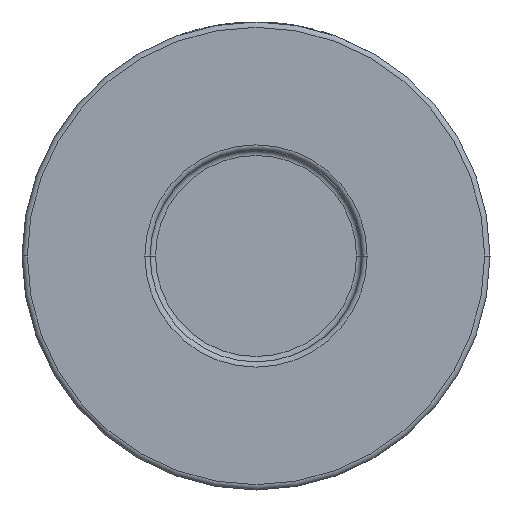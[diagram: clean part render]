
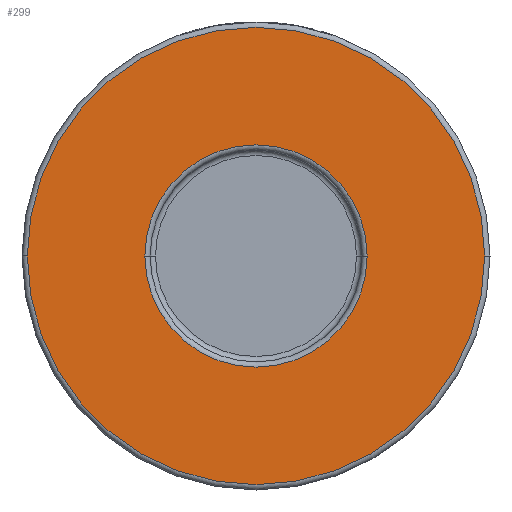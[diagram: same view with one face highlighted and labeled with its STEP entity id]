
A CAD part, front view. The second image highlights one B-rep face of the part: STEP entity #299.
In plain terms, the highlighted planar face has unit normal (0, -1, 0).
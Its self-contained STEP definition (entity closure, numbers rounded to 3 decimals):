
#140 = DIRECTION ( 'NONE',  ( 1., 0., 0. ) ) ;
#236 = AXIS2_PLACEMENT_3D ( 'NONE', #3827, #3554, #2090 ) ;
#238 = FACE_OUTER_BOUND ( 'NONE', #4279, .T. ) ;
#299 = ADVANCED_FACE ( 'NONE', ( #512, #238 ), #3778, .T. ) ;
#345 = CARTESIAN_POINT ( 'NONE',  ( 0., -19., 0. ) ) ;
#362 = EDGE_CURVE ( 'NONE', #4191, #2418, #834, .T. ) ;
#373 = EDGE_CURVE ( 'NONE', #2286, #4182, #3415, .T. ) ;
#386 = CARTESIAN_POINT ( 'NONE',  ( 20.9, -19., 0. ) ) ;
#512 = FACE_BOUND ( 'NONE', #3466, .T. ) ;
#700 = DIRECTION ( 'NONE',  ( 0., 1., 0. ) ) ;
#779 = CARTESIAN_POINT ( 'NONE',  ( 43., -19., 0. ) ) ;
#834 = CIRCLE ( 'NONE', #236, 43. ) ;
#971 = AXIS2_PLACEMENT_3D ( 'NONE', #3129, #700, #2114 ) ;
#1129 = CIRCLE ( 'NONE', #1868, 43. ) ;
#1158 = ORIENTED_EDGE ( 'NONE', *, *, #2341, .T. ) ;
#1181 = CARTESIAN_POINT ( 'NONE',  ( -43., -19., 0. ) ) ;
#1226 = CIRCLE ( 'NONE', #3731, 20.9 ) ;
#1868 = AXIS2_PLACEMENT_3D ( 'NONE', #345, #4548, #4526 ) ;
#2090 = DIRECTION ( 'NONE',  ( 1., 0., 0. ) ) ;
#2114 = DIRECTION ( 'NONE',  ( 1., 0., 0. ) ) ;
#2286 = VERTEX_POINT ( 'NONE', #4505 ) ;
#2293 = DIRECTION ( 'NONE',  ( 0., -1., 0. ) ) ;
#2341 = EDGE_CURVE ( 'NONE', #2418, #4191, #1129, .T. ) ;
#2369 = ORIENTED_EDGE ( 'NONE', *, *, #373, .T. ) ;
#2418 = VERTEX_POINT ( 'NONE', #779 ) ;
#2569 = CARTESIAN_POINT ( 'NONE',  ( 0., -19., 0. ) ) ;
#2711 = CARTESIAN_POINT ( 'NONE',  ( 44., -19., 0. ) ) ;
#3129 = CARTESIAN_POINT ( 'NONE',  ( 0., -19., 0. ) ) ;
#3217 = DIRECTION ( 'NONE',  ( 1., 0., 0. ) ) ;
#3243 = ORIENTED_EDGE ( 'NONE', *, *, #4181, .T. ) ;
#3263 = DIRECTION ( 'NONE',  ( 0., 1., 0. ) ) ;
#3415 = CIRCLE ( 'NONE', #971, 20.9 ) ;
#3466 = EDGE_LOOP ( 'NONE', ( #3243, #2369 ) ) ;
#3554 = DIRECTION ( 'NONE',  ( 0., -1., 0. ) ) ;
#3724 = AXIS2_PLACEMENT_3D ( 'NONE', #2711, #2293, #140 ) ;
#3731 = AXIS2_PLACEMENT_3D ( 'NONE', #2569, #3263, #3217 ) ;
#3778 = PLANE ( 'NONE',  #3724 ) ;
#3827 = CARTESIAN_POINT ( 'NONE',  ( 0., -19., 0. ) ) ;
#4181 = EDGE_CURVE ( 'NONE', #4182, #2286, #1226, .T. ) ;
#4182 = VERTEX_POINT ( 'NONE', #386 ) ;
#4191 = VERTEX_POINT ( 'NONE', #1181 ) ;
#4279 = EDGE_LOOP ( 'NONE', ( #1158, #4431 ) ) ;
#4431 = ORIENTED_EDGE ( 'NONE', *, *, #362, .T. ) ;
#4505 = CARTESIAN_POINT ( 'NONE',  ( -20.9, -19., 0. ) ) ;
#4526 = DIRECTION ( 'NONE',  ( 1., 0., 0. ) ) ;
#4548 = DIRECTION ( 'NONE',  ( 0., -1., 0. ) ) ;
